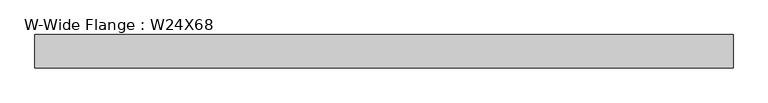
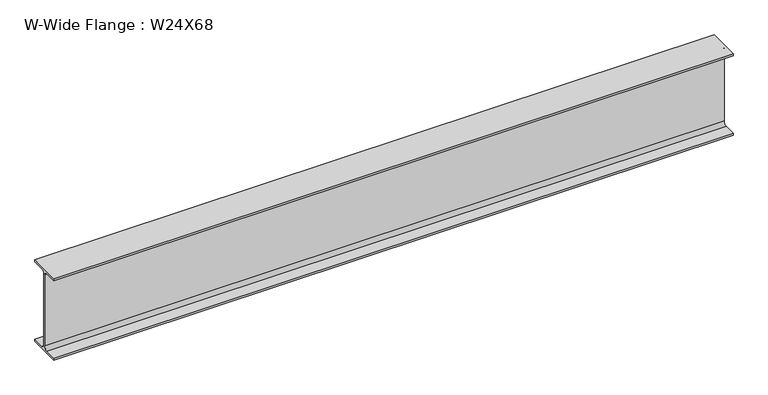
"""IFC4 building model written with IfcOpenShell, lengths in millimetres: beam geometry, W-Wide Flange : W24X68."""

from ifc_helpers import new_model, si_unit, point, frame, frame_2d, origin, place, context, project, spatial, polyline, circle_curve, trimmed, segment, composite_curve, outline, extrude, source, transform, mapped, element, save


def w_wide_flange_w24x68_ff5f66c1(model_context):
    return source(origin(), model_context, "Body", "SweptSolid", [
        extrude(outline(composite_curve([segment(polyline([(113.919, -286.131), (113.919, -300.99), (-113.919, -300.99), (-113.919, -286.131), (-28.5115, -286.131)]), True, "CONTINUOUS"), segment(trimmed(circle_curve(frame_2d((-28.5115, -262.89)), 23.241), [point((-28.5115, -286.131))], [point((-5.2705, -262.89))], True, "CARTESIAN"), True, "CONTINUOUS"), segment(polyline([(-5.2705, -262.89), (-5.2705, 262.89)]), True, "CONTINUOUS"), segment(trimmed(circle_curve(frame_2d((-28.5115, 262.89)), 23.241), [point((-5.2705, 262.89))], [point((-28.5115, 286.131))], True, "CARTESIAN"), True, "CONTINUOUS"), segment(polyline([(-28.5115, 286.131), (-113.919, 286.131), (-113.919, 300.99), (113.919, 300.99), (113.919, 286.131), (28.5115, 286.131)]), True, "CONTINUOUS"), segment(trimmed(circle_curve(frame_2d((28.5115, 262.89)), 23.241), [point((28.5115, 286.131))], [point((5.2705, 262.89))], True, "CARTESIAN"), True, "CONTINUOUS"), segment(polyline([(5.2705, 262.89), (5.2705, -262.89)]), True, "CONTINUOUS"), segment(trimmed(circle_curve(frame_2d((28.5115, -262.89)), 23.241), [point((5.2705, -262.89))], [point((28.5115, -286.131))], True, "CARTESIAN"), True, "CONTINUOUS"), segment(polyline([(28.5115, -286.131), (113.919, -286.131)]), True, "CONTINUOUS")], self_intersect=False)), frame((-2374.9, 0.0, 0.0), z_axis=(1.0, 0.0, 0.0), x_axis=(0.0, 1.0, 0.0)), (0.0, 0.0, 1.0), 4749.8),
    ])


if __name__ == "__main__":
    model = new_model("IFC4")
    model_context = context("Model", 3, world=origin())
    ifc_project = project(units=[si_unit("LENGTHUNIT", "METRE", prefix="MILLI")], contexts=[model_context])
    site = spatial("IfcSite", under=ifc_project)
    building = spatial("IfcBuilding", under=site)
    placement = place(None, origin())
    w_wide_flange_w24x68_shape = w_wide_flange_w24x68_ff5f66c1(model_context)
    element("IfcBeam", 1, ObjectType="W-Wide Flange : W24X68", at=placement, inside=building, context=model_context, shape_type="MappedRepresentation", body=[
        mapped(w_wide_flange_w24x68_shape, transform((0.0, 0.0, 0.0), x_axis=(1.0, 0.0, 0.0), y_axis=(0.0, 1.0, 0.0), z_axis=(0.0, 0.0, 1.0))),
    ])
    save(model, "model.ifc")
